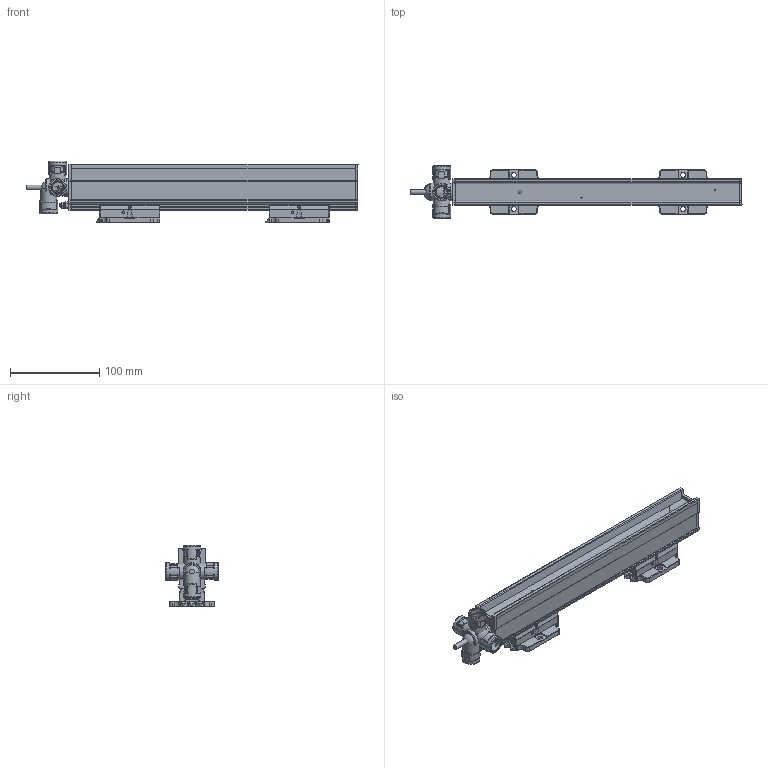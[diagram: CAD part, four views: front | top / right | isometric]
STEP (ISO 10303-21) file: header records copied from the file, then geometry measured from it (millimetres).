
FILE_DESCRIPTION(/* description */ (''),/* implementation_level */ '2;1');
FILE_NAME(/* name */ 'PERFORMAXEASYEX_0150_3D_GB',/* time_stamp */ '2017-05-31T09:44:09+02:00',/* author */ (''),/* organization */ (''),/* preprocessor_version */ 'ST-DEVELOPER v15.7',/* originating_system */ 'HiCAD 2015 2002.1 Build 408',/* authorisation */ '');
FILE_SCHEMA (('AUTOMOTIVE_DESIGN { 1 0 10303 214 1 1 1 1 }'));
Products named in the file (57): Root; -_Performax (IQ) Easy Ex 0150 eff (Speed); -_LED; -_PROFILE; -_POTTING; -_CAP DE; -_CAP CE; -_CABLE; -_PIN; -_COVER; 4532000100_Mounting bracket bars; -_Side piece; -_Slide piece; -_Bracket small; DIN 13-M3; DIN 76-M3; 2047507823_PE connection; DIN 916-M4x20-45H_Set screws; GEWINDE; ISO 8738-4-160 HV_Washers for studs; ISO 4032-M4-10_Hexagon nuts; DIN 127-A 4-FSt_Washers; 2047493713_Cable exits; -_Exit K; -_Clip; -_Gland body; -_Exit S; -_Exit Q; -_Washer ø20mm, 5mm thick for corr. conduit (exit
 Q); -_Exit I; -_Exit U; -_Exit A; Thread_2
Assembly tree (56 placements, depth 5):
  Root
    -_Performax (IQ) Easy Ex 0150 eff (Speed)
      -_LED
      -_PROFILE
      -_POTTING
      -_CAP DE
      -_CAP CE
      -_CABLE
      -_PIN
      -_PIN
      -_COVER
      4532000100_Mounting bracket bars
        -_Side piece
        -_Side piece
        -_Slide piece
        -_Bracket small
          DIN 13-M3
          DIN 13-M3
          DIN 76-M3
          DIN 76-M3
      4532000100_Mounting bracket bars
        -_Side piece
        -_Side piece
        -_Slide piece
        -_Bracket small
          DIN 13-M3
          DIN 13-M3
          DIN 76-M3
          DIN 76-M3
      2047507823_PE connection
        DIN 916-M4x20-45H_Set screws
          GEWINDE
        ISO 8738-4-160 HV_Washers for studs
        ISO 4032-M4-10_Hexagon nuts
          GEWINDE
        DIN 127-A 4-FSt_Washers
        ISO 4032-M4-10_Hexagon nuts
          GEWINDE
      2047493713_Cable exits
        -_Exit K
          -_Clip
          -_Gland body
        -_Exit S
          -_Clip
          -_Gland body
        -_Exit Q
          -_Clip
          -_Washer ø20mm, 5mm thick for corr. conduit (exit
 Q)
          -_Gland body
        -_Exit I
          -_Clip
          -_Gland body
        -_Exit U
          -_Clip
          -_Gland body
        -_Exit A
          Thread_2
Bounding box: 372.4 x 58.79 x 68.9 mm (x, y, z)
Volume: 477178.9 mm3; surface area: 175287.6 mm2
Topology: 47 solids, 53 shells, 1941 faces, 5010 edges, 3074 vertices
Faces by surface type: plane 913, cylinder 739, torus 91, sphere 87, bspline 64, cone 47
Full cylindrical faces by diameter (mm): 2.387 x8, 3 x16, 3.141 x4, 4 x5, 4.3 x1, 5.4 x2, 5.5 x10, 8 x2, 11.3 x4, 12.5 x4, 13 x1, 14.6 x5, 15.1 x5, 18.4 x4, 20 x7, 20.2 x4
Entity records: 107117 total; most frequent: CARTESIAN_POINT 22020, DIRECTION 10074, PRESENTATION_STYLE_ASSIGNMENT 9495, OVER_RIDING_STYLED_ITEM 9449, DRAUGHTING_PRE_DEFINED_CURVE_FONT 9436, CURVE_STYLE 9436, ORIENTED_EDGE 9436, EDGE_CURVE 4718
